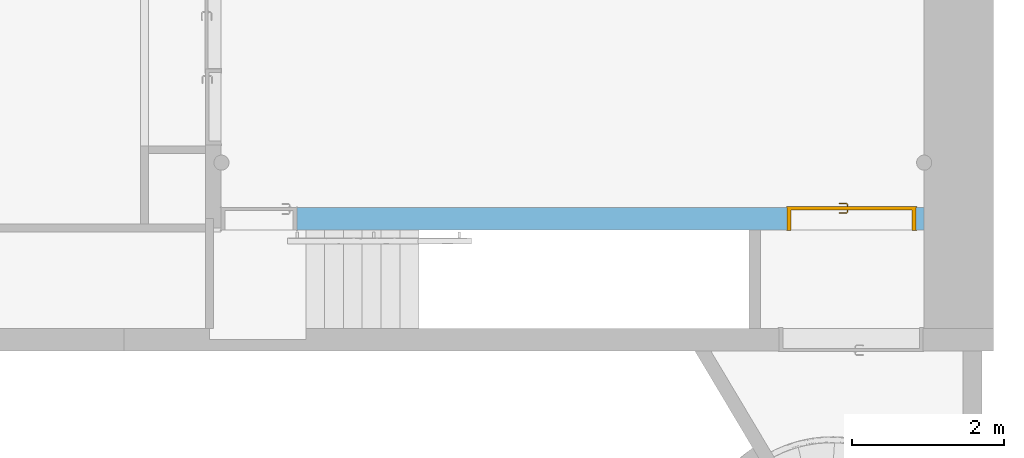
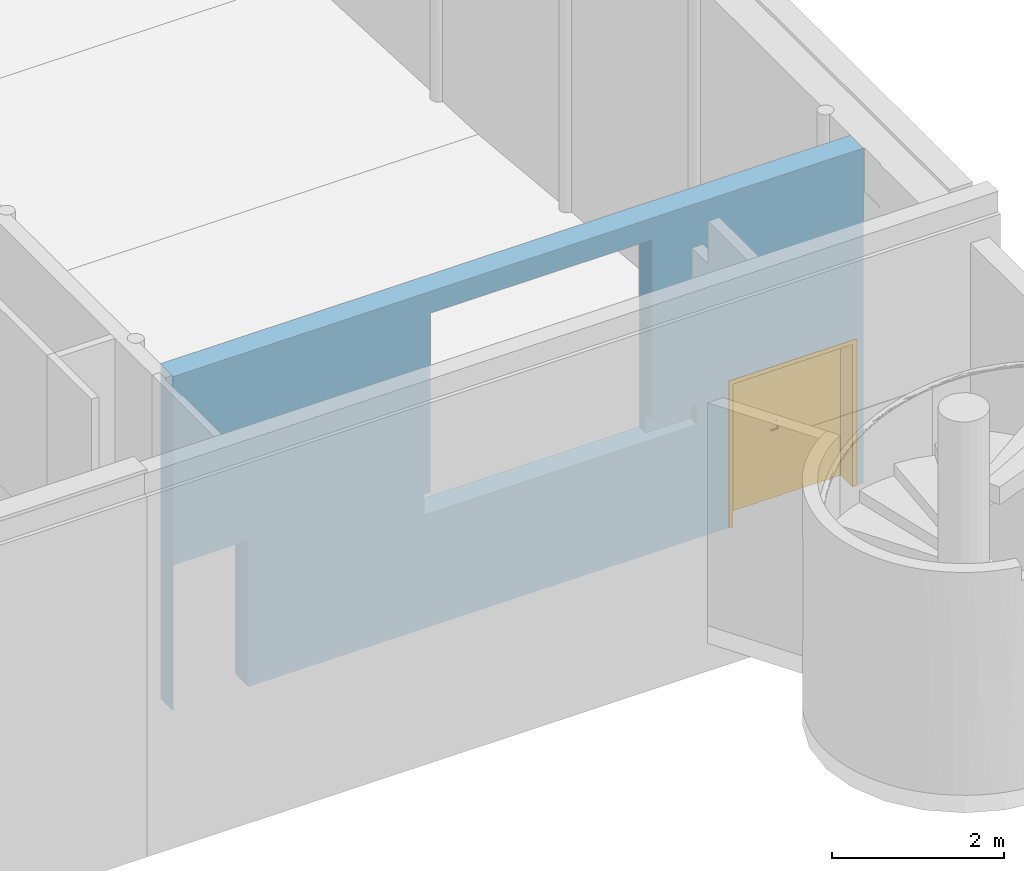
# One storey, part 24 of 39: 1 door, 2 openings, plus 1 element that does not belong to this part.
"""IFC4 building model written with IfcOpenShell, lengths in metres."""

from ifc_helpers import new_model, entity, si_unit, converted_unit, derived_unit, direction, frame, origin, place, context, subcontext, project, spatial, indexed_curve, outline, extrude, polygons, source, transform, mapped, material, material_list, layer, layer_set, constituent, constituent_set, type_object, type_shapes, element, fill, save


model = new_model("IFC4")

# Units and contexts
model_context = context("Model", 3, precision=1e-05, world=origin(), true_north=direction((6.12303176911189e-17, 1.0)))
body_context = subcontext(model_context, "Body", "Model", "MODEL_VIEW")
ifc_project = project(units=[si_unit("LENGTHUNIT", "METRE"), si_unit("AREAUNIT", "SQUARE_METRE"), si_unit("VOLUMEUNIT", "CUBIC_METRE"), converted_unit("PLANEANGLEUNIT", "DEGREE", entity("IfcRatioMeasure", 0.0174532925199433), si_unit("PLANEANGLEUNIT", "RADIAN"), dimensions=[0, 0, 0, 0, 0, 0, 0]), si_unit("MASSUNIT", "GRAM", prefix="KILO"), derived_unit("MASSDENSITYUNIT", [(si_unit("MASSUNIT", "GRAM", prefix="KILO"), 1), (si_unit("LENGTHUNIT", "METRE"), -3)]), derived_unit("MOMENTOFINERTIAUNIT", [(si_unit("LENGTHUNIT", "METRE"), 4)]), si_unit("TIMEUNIT", "SECOND"), si_unit("FREQUENCYUNIT", "HERTZ"), si_unit("THERMODYNAMICTEMPERATUREUNIT", "DEGREE_CELSIUS"), derived_unit("THERMALTRANSMITTANCEUNIT", [(si_unit("MASSUNIT", "GRAM", prefix="KILO"), 1), (si_unit("THERMODYNAMICTEMPERATUREUNIT", "KELVIN"), -1), (si_unit("TIMEUNIT", "SECOND"), -3)]), derived_unit("VOLUMETRICFLOWRATEUNIT", [(si_unit("LENGTHUNIT", "METRE"), 3), (si_unit("TIMEUNIT", "SECOND"), -1)]), si_unit("ELECTRICCURRENTUNIT", "AMPERE"), si_unit("ELECTRICVOLTAGEUNIT", "VOLT"), si_unit("POWERUNIT", "WATT"), si_unit("FORCEUNIT", "NEWTON", prefix="KILO"), si_unit("ILLUMINANCEUNIT", "LUX"), si_unit("LUMINOUSFLUXUNIT", "LUMEN"), si_unit("LUMINOUSINTENSITYUNIT", "CANDELA"), derived_unit("USERDEFINED", [(si_unit("MASSUNIT", "GRAM", prefix="KILO"), -1), (si_unit("LENGTHUNIT", "METRE"), -2), (si_unit("TIMEUNIT", "SECOND"), 3), (si_unit("LUMINOUSFLUXUNIT", "LUMEN"), 1)]), derived_unit("LINEARVELOCITYUNIT", [(si_unit("LENGTHUNIT", "METRE"), 1), (si_unit("TIMEUNIT", "SECOND"), -1)]), si_unit("PRESSUREUNIT", "PASCAL"), derived_unit("USERDEFINED", [(si_unit("LENGTHUNIT", "METRE"), -2), (si_unit("MASSUNIT", "GRAM", prefix="KILO"), 1), (si_unit("TIMEUNIT", "SECOND"), -2)]), derived_unit("LINEARFORCEUNIT", [(si_unit("MASSUNIT", "GRAM", prefix="KILO"), 1), (si_unit("LENGTHUNIT", "METRE"), 1), (si_unit("TIMEUNIT", "SECOND"), -2), (si_unit("LENGTHUNIT", "METRE"), -1)]), derived_unit("PLANARFORCEUNIT", [(si_unit("MASSUNIT", "GRAM", prefix="KILO"), 1), (si_unit("LENGTHUNIT", "METRE"), 1), (si_unit("TIMEUNIT", "SECOND"), -2), (si_unit("LENGTHUNIT", "METRE"), -2)])], contexts=[model_context])

# Site, building, storey
site_placement = place(None, origin())
site = spatial("IfcSite", under=ifc_project, at=site_placement, Name="Default", CompositionType="ELEMENT")
building_placement = place(site_placement, origin())
building = spatial("IfcBuilding", under=site, at=building_placement, Name="HOTEL CONSULAIRE BOULOGNE SUR MER", CompositionType="ELEMENT")
storey_placement = place(building_placement, frame((0.0, 0.0, -5.02343668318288)))
storey = spatial("IfcBuildingStorey", under=building, at=storey_placement, Name="SS3", CompositionType="ELEMENT", Elevation=-5.02343668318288)

# Wall, openings, door
ifc_material_1 = material(Name="Mur par défaut", Category="Divers")
ifc_layer = layer(ifc_material_1, 0.3, Name="Mur par défaut", Category="Divers")
ifc_layer_set = layer_set([ifc_layer], Name="Mur de base:Générique - Int. 300 mm")
wall_type = type_object("IfcWallType", Name="Mur de base:Générique - Int. 300 mm", PredefinedType="NOTDEFINED", material=ifc_layer_set)
wall_placement = place(storey_placement, frame((21.6200604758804, -27.8738231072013, 0.0), z_axis=(0.0, 0.0, 1.0), x_axis=(-1.0, 0.0, 0.0)))
wall = element("IfcWall", 1, at=wall_placement, inside=storey, type_object=wall_type, material=ifc_layer_set, Name="Mur de base:Générique - Int. 300 mm", ObjectType="Mur de base:Générique - Int. 300 mm", PredefinedType="NOTDEFINED", context=body_context, shape_type="Tessellation", body=[
    polygons([(9.26083365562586, 0.150000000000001, 0.0), (9.26083365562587, -0.150000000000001, 0.0), (9.25883365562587, -0.150000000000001, 0.0), (9.25883365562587, 0.150000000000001, 0.0), (8.25883365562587, 0.149999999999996, 0.0), (8.25883365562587, -0.150000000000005, 0.0), (1.802, -0.150000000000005, 0.0), (1.802, 0.149999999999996, 0.0), (2.15311398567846, 0.149999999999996, 0.0), (2.30311398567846, 0.149999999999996, 0.0), (5.90015488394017, -4.33146851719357e-15, 1.90122547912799), (5.81015488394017, -4.33146851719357e-15, 1.90122547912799), (5.81015488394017, 0.150000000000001, 1.90122547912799), (5.90015488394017, 0.150000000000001, 1.90122547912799), (9.26083365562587, -0.150000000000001, 4.75343668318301), (2.17502173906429e-15, -0.150000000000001, 4.75343668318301), (2.17502173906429e-15, -0.150000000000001, 0.0), (0.102000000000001, -0.150000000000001, 0.0), (0.102000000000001, -0.150000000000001, 2.075), (1.802, -0.150000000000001, 2.075), (8.25883365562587, -0.150000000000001, 2.075), (9.25883365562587, -0.150000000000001, 2.075), (2.83859108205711, -0.150000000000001, 4.44754046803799), (5.81015488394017, -0.150000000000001, 4.44754046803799), (5.81015488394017, -0.150000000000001, 1.90122547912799), (5.81015488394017, -0.150000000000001, 1.61122547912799), (2.83859108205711, -0.150000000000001, 1.61122547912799), (2.83859108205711, -0.150000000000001, 1.90122547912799), (5.58076170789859e-16, 0.150000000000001, 4.75343668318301), (9.26083365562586, 0.150000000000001, 4.75343668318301), (9.25883365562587, 0.150000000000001, 2.075), (8.25883365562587, 0.150000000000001, 2.075), (1.802, 0.150000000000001, 2.075), (0.102000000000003, 0.150000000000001, 2.075), (0.102000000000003, 0.150000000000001, 0.0), (5.58076170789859e-16, 0.150000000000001, 0.0), (5.58076170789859e-16, 0.150000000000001, 4.14343668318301), (5.81015488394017, 0.150000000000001, 4.44754046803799), (2.83859108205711, 0.150000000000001, 4.44754046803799), (2.83859108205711, 0.150000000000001, 1.90122547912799), (2.81670884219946, 0.150000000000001, 1.90122547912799), (2.72670884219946, 0.150000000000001, 1.90122547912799), (2.30311398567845, 0.150000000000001, 1.90122547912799), (2.233, 0.150000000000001, 1.90122547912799), (2.233, 0.150000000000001, 1.61122547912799), (2.30311398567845, 0.150000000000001, 1.61122547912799), (5.90015488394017, 0.150000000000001, 1.61122547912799), (5.81015488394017, 0.150000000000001, 4.14343668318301), (9.26083365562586, 0.122450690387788, 4.75343668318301), (5.81015488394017, -4.33146851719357e-15, 1.61122547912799), (5.90015488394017, -4.33146851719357e-15, 1.61122547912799), (2.233, 0.0, 1.61122547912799), (2.83859108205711, 0.0, 1.61122547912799), (2.83859108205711, 0.0, 1.90122547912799), (2.233, 0.0, 1.90122547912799)], [[[2, 3, 4, 1]], [[6, 7, 8, 9, 10, 5]], [[14, 11, 12, 13]], [[18, 17, 36, 35]], [[31, 22, 21, 32]], [[33, 20, 19, 34]], [[23, 39, 38, 24]], [[43, 42, 41, 40, 54, 55, 44]], [[19, 20, 7, 6, 21, 22, 3, 2, 15, 16, 17, 18], [23, 24, 25, 26, 27, 28]], [[4, 31, 32, 5, 10, 9, 8, 33, 34, 35, 36, 37, 29, 30, 1], [48, 38, 39, 40, 41, 42, 43, 44, 45, 46, 47, 14, 13]], [[11, 51, 50, 12]], [[55, 54, 53, 52]], [[16, 15, 49, 30, 29]], [[52, 53, 27, 26, 50, 51, 47, 46, 45]], [[49, 15, 2, 1, 30]], [[5, 32, 21, 6]], [[35, 34, 19, 18]], [[54, 40, 39, 23, 28, 27, 53]], [[44, 55, 52, 45]], [[37, 36, 17, 16, 29]], [[4, 3, 22, 31]], [[8, 7, 20, 33]], [[13, 12, 50, 26, 25, 24, 38, 48]], [[11, 14, 47, 51]]], closed=True),
])
opening_1_placement = place(wall_placement, frame((9.25883365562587, 0.149999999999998, 0.0)))
element("IfcOpeningElement", 2, at=opening_1_placement, cuts=wall, Name="Int. Simple:PP0.93x2.04:1", ObjectType="Opening", PredefinedType="OPENING", context=body_context, shape_type="SweptSolid", body=[
    extrude(outline(indexed_curve([(0.0, -1.76917613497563e-29), (2.075, -1.76917613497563e-29), (2.075, 1.0), (0.0, 1.0), (0.0, -1.76917613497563e-29)], self_intersect=False)), frame((0.0, 0.0, 0.0), z_axis=(0.0, -1.0, 0.0), x_axis=(0.0, 0.0, 1.0)), (0.0, 0.0, 1.0), 0.3),
])
opening_2_placement = place(wall_placement, frame((1.802, 0.149999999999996, 0.0)))
opening_2 = element("IfcOpeningElement", 3, at=opening_2_placement, cuts=wall, Name="Double (R):1.63m x 2.04m:1", ObjectType="Opening", PredefinedType="OPENING", context=body_context, shape_type="SweptSolid", body=[
    extrude(outline(indexed_curve([(0.0, 0.0), (2.075, 0.0), (2.075, 1.7), (0.0, 1.7), (0.0, 0.0)], self_intersect=False)), frame((0.0, 0.0, 0.0), z_axis=(0.0, -1.0, 0.0), x_axis=(0.0, 0.0, 1.0)), (0.0, 0.0, 1.0), 0.3),
])
ifc_material_2 = material(Name="Porte - Poignée", Category="Métal")
ifc_constituent_1 = constituent(ifc_material_2, Name="Porte - Poignée", Category="Matériaux")
ifc_material_3 = material(Name="Porte - Cadre", Category="Peinture")
ifc_constituent_2 = constituent(ifc_material_3, Name="Porte - Cadre", Category="Matériaux")
ifc_material_4 = material(Name="Porte - Panneau", Category="Bois")
ifc_constituent_3 = constituent(ifc_material_4, Name="Porte - Panneau", Category="Matériaux")
ifc_constituent_set = constituent_set(constituents=[ifc_constituent_1, ifc_constituent_2, ifc_constituent_3], Name="MaterialConstituentSet")
ifc_material_list = material_list([ifc_material_4, ifc_material_2, ifc_material_3])
door_type = type_object("IfcDoorType", Name="Double (R):1.63m x 2.04m", OperationType="DOUBLE_DOOR_SINGLE_SWING", PredefinedType="DOOR", material=ifc_material_list)
shared_shape = source(origin(), body_context, "Body", "Tessellation", [
    polygons([(0.91100000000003, 0.0369999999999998, 0.993000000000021), (0.911000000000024, 0.0369999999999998, 1.00699999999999), (0.907025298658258, 0.0369999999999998, 1.00778044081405), (0.902974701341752, 0.0369999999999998, 1.00778044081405), (0.898999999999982, 0.0369999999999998, 1.00699999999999), (0.898999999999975, 0.0369999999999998, 0.992999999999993), (0.902974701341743, 0.0369999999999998, 0.992219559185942), (0.907025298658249, 0.0369999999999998, 0.992219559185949), (0.91100000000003, 0.0594852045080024, 0.993000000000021), (0.91100000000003, 0.0594852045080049, 1.00699999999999), (0.907025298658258, 0.0611315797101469, 1.00778044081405), (0.902974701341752, 0.062809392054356, 1.00778044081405), (0.898999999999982, 0.0644557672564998, 1.00699999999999), (0.898999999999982, 0.0644557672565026, 0.992999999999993), (0.902974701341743, 0.0628093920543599, 0.992219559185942), (0.907025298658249, 0.0611315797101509, 0.992219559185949), (0.922485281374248, 0.0709704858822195, 0.993000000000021), (0.92248528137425, 0.0709704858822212, 1.00699999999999), (0.920838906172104, 0.0749451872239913, 1.00778044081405), (0.919161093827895, 0.0789957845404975, 1.00778044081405), (0.917514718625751, 0.0829704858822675, 1.00699999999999), (0.917514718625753, 0.0829704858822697, 0.992999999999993), (0.919161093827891, 0.078995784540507, 0.992219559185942), (0.9208389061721, 0.0749451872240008, 0.992219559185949), (1.0025605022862, 0.0709704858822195, 0.993000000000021), (1.00256050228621, 0.0709704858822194, 1.00699999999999), (1.00420687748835, 0.0749451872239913, 1.00778044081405), (1.00588468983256, 0.0789957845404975, 1.00778044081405), (1.0075310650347, 0.0829704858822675, 1.00699999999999), (0.967600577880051, 0.0829704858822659, 1.00699999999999), (0.962522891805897, 0.0771249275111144, 1.00787811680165), (0.962522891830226, 0.0709704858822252, 1.00699999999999), (1.0075310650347, 0.0829704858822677, 0.992999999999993), (1.00588468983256, 0.078995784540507, 0.992219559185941), (1.00420687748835, 0.0749451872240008, 0.992219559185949), (0.957445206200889, 0.0829704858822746, 0.992999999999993), (0.962522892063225, 0.0771249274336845, 0.992121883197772), (0.962522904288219, 0.0709704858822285, 0.993000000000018), (1.00787421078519, 0.0656567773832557, 0.993000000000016), (1.01068474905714, 0.0684673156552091, 0.992219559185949), (1.0135489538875, 0.0713315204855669, 0.992219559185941), (1.01635949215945, 0.0741420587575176, 0.992999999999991), (1.01635949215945, 0.074142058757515, 1.00699999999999), (1.0135489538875, 0.0713315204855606, 1.00778044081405), (1.01068474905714, 0.0684673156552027, 1.00778044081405), (1.00787421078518, 0.065656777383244, 1.00699999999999)], [[[4, 5, 6, 7, 8, 1, 2, 3]], [[18, 17, 38, 25, 26, 32]], [[2, 1, 9, 10]], [[10, 11, 3, 2]], [[11, 19, 20, 12, 4, 3]], [[45, 44, 28, 27]], [[12, 13, 5, 4]], [[6, 5, 13, 14]], [[14, 15, 7, 6]], [[15, 23, 24, 16, 8, 7]], [[41, 40, 35, 34]], [[16, 9, 1, 8]], [[10, 9, 17, 18]], [[39, 40, 41, 42, 43, 44, 45, 46]], [[18, 19, 11, 10]], [[20, 21, 13, 12]], [[14, 13, 21, 22]], [[22, 23, 15, 14]], [[24, 17, 9, 16]], [[19, 32, 31]], [[28, 29, 30]], [[21, 20, 30]], [[30, 20, 31]], [[31, 32, 27]], [[27, 28, 31]], [[32, 19, 18]], [[26, 27, 32]], [[19, 31, 20]], [[30, 31, 28]], [[22, 21, 30, 29, 33, 36]], [[36, 37, 23]], [[37, 36, 34]], [[23, 22, 36]], [[33, 34, 36]], [[37, 38, 24]], [[24, 23, 37]], [[35, 38, 37]], [[17, 24, 38]], [[38, 35, 25]], [[35, 37, 34]], [[26, 25, 39, 46]], [[46, 45, 27, 26]], [[44, 43, 29, 28]], [[33, 29, 43, 42]], [[42, 41, 34, 33]], [[40, 39, 25, 35]]], closed=True),
    polygons([(0.898999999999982, -0.0130000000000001, 1.00699999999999), (0.902974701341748, -0.0130000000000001, 1.00778044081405), (0.907025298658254, -0.0130000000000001, 1.00778044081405), (0.911000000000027, -0.0130000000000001, 1.00699999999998), (0.911000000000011, -0.0130000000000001, 0.993000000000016), (0.907025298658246, -0.0130000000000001, 0.992219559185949), (0.90297470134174, -0.0130000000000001, 0.992219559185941), (0.898999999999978, -0.0130000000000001, 0.992999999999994), (0.898999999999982, -0.0406509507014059, 1.00699999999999), (0.902974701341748, -0.0390045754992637, 1.00778044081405), (0.907025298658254, -0.0373267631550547, 1.00778044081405), (0.911000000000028, -0.0356803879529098, 1.00699999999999), (0.911000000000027, -0.0356803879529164, 0.993000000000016), (0.907025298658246, -0.037326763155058, 0.992219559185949), (0.90297470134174, -0.039004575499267, 0.992219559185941), (0.898999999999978, -0.0406509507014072, 0.992999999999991), (0.917377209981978, -0.0590281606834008, 1.00699999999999), (0.91902358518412, -0.0550534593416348, 1.00778044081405), (0.920701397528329, -0.0510028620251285, 1.00778044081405), (0.922347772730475, -0.0470281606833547, 1.00699999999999), (0.922347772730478, -0.0470281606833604, 0.993000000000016), (0.920701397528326, -0.0510028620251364, 0.992219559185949), (0.919023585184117, -0.0550534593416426, 0.992219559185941), (0.917377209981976, -0.0590281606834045, 0.992999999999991), (1.00750392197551, -0.0590281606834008, 1.00699999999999), (1.00585754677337, -0.0550534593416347, 1.00778044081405), (1.00417973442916, -0.0510028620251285, 1.00778044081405), (1.00253335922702, -0.0470281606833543, 1.00699999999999), (0.957307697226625, -0.0590281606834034, 1.00699999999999), (0.962440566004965, -0.0531828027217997, 1.00787811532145), (0.962440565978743, -0.0470281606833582, 1.00699999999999), (1.00253335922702, -0.0470281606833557, 0.993000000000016), (1.00417973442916, -0.0510028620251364, 0.992219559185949), (1.00585754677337, -0.0550534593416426, 0.992219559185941), (1.00750392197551, -0.0590281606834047, 0.992999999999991), (0.967573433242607, -0.0590281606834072, 0.992999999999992), (0.96244056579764, -0.0531828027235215, 0.992121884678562), (0.962440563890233, -0.0470281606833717, 0.993000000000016), (1.01633234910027, -0.0501997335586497, 1.00699999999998), (1.01633234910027, -0.0501997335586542, 0.992999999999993), (1.01352181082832, -0.0473891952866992, 0.992219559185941), (1.01065760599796, -0.0445249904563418, 0.992219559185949), (1.00784706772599, -0.0417144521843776, 0.993000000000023), (1.007847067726, -0.041714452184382, 1.00699999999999), (1.01065760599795, -0.044524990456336, 1.00778044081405), (1.01352181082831, -0.0473891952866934, 1.00778044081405)], [[[2, 3, 4, 5, 6, 7, 8, 1]], [[21, 20, 31, 28, 32, 38]], [[9, 10, 2, 1]], [[10, 18, 19, 11, 3, 2]], [[46, 45, 27, 26]], [[11, 12, 4, 3]], [[5, 4, 12, 13]], [[13, 14, 6, 5]], [[14, 22, 23, 15, 7, 6]], [[42, 41, 34, 33]], [[15, 16, 8, 7]], [[1, 8, 16, 9]], [[17, 18, 10, 9]], [[19, 20, 12, 11]], [[13, 12, 20, 21]], [[44, 45, 46, 39, 40, 41, 42, 43]], [[21, 22, 14, 13]], [[23, 24, 16, 15]], [[9, 16, 24, 17]], [[29, 30, 18]], [[30, 29, 26]], [[18, 17, 29]], [[25, 26, 29]], [[30, 31, 19]], [[19, 18, 30]], [[27, 31, 30]], [[20, 19, 31]], [[31, 27, 28]], [[27, 30, 26]], [[22, 38, 37]], [[34, 35, 36]], [[24, 23, 36]], [[36, 23, 37]], [[37, 38, 33]], [[33, 34, 37]], [[38, 22, 21]], [[32, 33, 38]], [[22, 37, 23]], [[36, 37, 34]], [[17, 24, 36, 35, 25, 29]], [[39, 46, 26, 25]], [[45, 44, 28, 27]], [[32, 28, 44, 43]], [[43, 42, 33, 32]], [[41, 40, 35, 34]], [[25, 35, 40, 39]]], closed=True),
    polygons([(0.924999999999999, 0.0319999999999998, 1.08), (0.9153527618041, 0.0319999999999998, 1.08399601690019), (0.904999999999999, 0.0319999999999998, 1.08535898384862), (0.894647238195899, 0.0319999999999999, 1.08399601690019), (0.885, 0.0319999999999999, 1.08), (0.885, 0.0319999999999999, 0.870000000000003), (0.894647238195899, 0.0319999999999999, 0.866003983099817), (0.904999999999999, 0.0319999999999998, 0.864641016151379), (0.9153527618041, 0.0319999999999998, 0.866003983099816), (0.924999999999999, 0.0319999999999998, 0.870000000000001), (0.924999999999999, 0.0369999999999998, 1.08), (0.924999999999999, 0.0369999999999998, 0.870000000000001), (0.9153527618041, 0.0369999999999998, 0.866003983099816), (0.904999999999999, 0.0369999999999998, 0.864641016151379), (0.894647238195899, 0.0369999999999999, 0.866003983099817), (0.885, 0.0369999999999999, 0.870000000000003), (0.885, 0.0369999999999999, 1.08), (0.894647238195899, 0.0369999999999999, 1.08399601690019), (0.904999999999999, 0.0369999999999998, 1.08535898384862), (0.9153527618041, 0.0369999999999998, 1.08399601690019)], [[[9, 10, 1, 2, 3, 4, 5, 6, 7, 8]], [[20, 11, 12, 13, 14, 15, 16, 17, 18, 19]], [[11, 20, 2, 1]], [[2, 20, 19, 3]], [[19, 18, 4, 3]], [[18, 17, 5, 4]], [[6, 5, 17, 16]], [[16, 15, 7, 6]], [[7, 15, 14, 8]], [[14, 13, 9, 8]], [[13, 12, 10, 9]], [[1, 10, 12, 11]]], closed=True),
    polygons([(0.885, -0.0130000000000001, 0.870000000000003), (0.894647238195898, -0.0130000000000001, 0.866003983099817), (0.904999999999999, -0.0130000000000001, 0.864641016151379), (0.9153527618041, -0.0130000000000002, 0.866003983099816), (0.924999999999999, -0.0130000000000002, 0.870000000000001), (0.924999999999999, -0.0130000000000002, 1.08), (0.9153527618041, -0.0130000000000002, 1.08399601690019), (0.904999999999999, -0.0130000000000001, 1.08535898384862), (0.894647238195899, -0.0130000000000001, 1.08399601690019), (0.885, -0.0130000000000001, 1.08), (0.885, -0.00800000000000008, 0.870000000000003), (0.885, -0.00800000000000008, 1.08), (0.894647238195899, -0.00800000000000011, 1.08399601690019), (0.904999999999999, -0.00800000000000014, 1.08535898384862), (0.9153527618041, -0.00800000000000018, 1.08399601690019), (0.924999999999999, -0.00800000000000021, 1.08), (0.924999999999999, -0.00800000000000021, 0.870000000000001), (0.9153527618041, -0.00800000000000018, 0.866003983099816), (0.904999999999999, -0.00800000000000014, 0.864641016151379), (0.894647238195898, -0.00800000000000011, 0.866003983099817)], [[[4, 5, 6, 7, 8, 9, 10, 1, 2, 3]], [[15, 16, 17, 18, 19, 20, 11, 12, 13, 14]], [[11, 20, 2, 1]], [[2, 20, 19, 3]], [[19, 18, 4, 3]], [[18, 17, 5, 4]], [[6, 5, 17, 16]], [[16, 15, 7, 6]], [[7, 15, 14, 8]], [[14, 13, 9, 8]], [[13, 12, 10, 9]], [[1, 10, 12, 11]]], closed=True),
    polygons([(0.0, -3.38395977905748e-17, 0.0), (0.0, 0.300000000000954, 0.0), (-0.01, 0.300000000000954, 0.0), (-0.01, 0.308000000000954, 0.0), (0.0499999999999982, 0.308000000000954, 0.0), (0.0499999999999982, 0.032, 0.0), (0.0349999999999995, 0.032, 0.0), (0.0349999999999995, -0.00799999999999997, 0.0), (-0.01, -0.00799999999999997, 0.0), (-0.01, -3.38395977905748e-17, 0.0), (0.0, -3.38395977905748e-17, 2.075), (0.0, 0.300000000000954, 2.075), (1.7, 0.300000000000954, 2.075), (1.7, 0.300000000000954, -8.06798882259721e-24), (1.71, 0.300000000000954, -4.03399441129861e-24), (1.71, 0.300000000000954, 2.085), (-0.01, 0.300000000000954, 2.085), (-0.01, 0.308000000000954, 2.085), (1.71, 0.308000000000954, 2.085), (1.71, 0.308000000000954, 0.0), (1.65, 0.308000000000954, 4.03399441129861e-24), (1.65, 0.308000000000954, 2.025), (0.0499999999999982, 0.308000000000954, 2.025), (0.0499999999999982, 0.032, 2.025), (1.65, 0.032, 2.025), (1.65, 0.032, 0.0), (1.665, 0.032, 8.06798882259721e-24), (1.665, 0.032, 2.04), (0.0349999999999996, 0.032, 2.04), (0.0349999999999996, -0.00799999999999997, 2.04), (1.665, -0.00799999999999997, 2.04), (1.665, -0.00799999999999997, -3.95489669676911e-25), (1.71, -0.00799999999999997, -5.61595299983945e-24), (1.71, -0.00799999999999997, 2.085), (-0.01, -0.00799999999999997, 2.085), (-0.01, -3.38395977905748e-17, 2.085), (1.71, -3.38395977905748e-17, 2.085), (1.71, -3.38395977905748e-17, 0.0), (1.7, -3.38395977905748e-17, -4.03399441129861e-24), (1.7, -3.38395977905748e-17, 2.075)], [[[2, 3, 4, 5, 6, 7, 8, 9, 10, 1]], [[20, 15, 14, 39, 38, 33, 32, 27, 26, 21]], [[24, 23, 22, 25]], [[30, 29, 28, 31]], [[2, 1, 11, 12]], [[4, 3, 17, 18]], [[10, 9, 35, 36]], [[25, 22, 21, 26]], [[31, 28, 27, 32]], [[14, 15, 16, 17, 3, 2, 12, 13]], [[26, 27, 28, 29, 7, 6, 24, 25]], [[32, 33, 34, 35, 9, 8, 30, 31]], [[5, 4, 18, 19, 20, 21, 22, 23]], [[1, 10, 36, 37, 38, 39, 40, 11]], [[6, 5, 23, 24]], [[8, 7, 29, 30]], [[13, 40, 39, 14]], [[19, 16, 15, 20]], [[37, 34, 33, 38]], [[12, 11, 40, 13]], [[18, 17, 16, 19]], [[36, 35, 34, 37]]], closed=True),
    polygons([(1.665, -0.00799999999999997, 0.0), (1.665, -0.00799999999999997, 2.04), (0.85, -0.00799999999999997, 2.04), (0.85, -0.00799999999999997, 0.0), (1.665, 0.032, 0.0), (0.85, 0.032, 0.0), (0.85, 0.032, 2.04), (1.665, 0.032, 2.04)], [[[4, 1, 2, 3]], [[7, 8, 5, 6]], [[2, 1, 5, 8]], [[3, 2, 8, 7]], [[4, 3, 7, 6]], [[1, 4, 6, 5]]], closed=True),
    polygons([(0.0349999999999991, -0.00799999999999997, 2.04), (0.0349999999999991, -0.00799999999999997, 2.00530949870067e-18), (0.85, -0.00799999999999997, 0.0), (0.85, -0.00799999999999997, 2.04), (0.0349999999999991, 0.032, 2.04), (0.85, 0.032, 2.04), (0.85, 0.032, -2.34809378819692e-34), (0.0349999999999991, 0.032, 0.0)], [[[4, 1, 2, 3]], [[7, 8, 5, 6]], [[2, 1, 5, 8]], [[3, 2, 8, 7]], [[4, 3, 7, 6]], [[1, 4, 6, 5]]], closed=True),
])
type_shapes(door_type, [shared_shape])
door_placement = place(opening_2_placement, frame((-1.7, -0.299999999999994, 0.0)))
door = element("IfcDoor", 4, at=door_placement, inside=storey, type_object=door_type, material=ifc_constituent_set, Name="Double (R):1.63m x 2.04m", ObjectType="Double (R):1.63m x 2.04m", OperationType="DOUBLE_DOOR_SINGLE_SWING", OverallHeight=2.075, OverallWidth=1.7, PredefinedType="DOOR", context=body_context, shape_type="MappedRepresentation", body=[
    mapped(shared_shape, transform((0.0, 0.0, 0.0), scale=1.0)),
])
fill(opening_2, door)

save(model, "model.ifc")
